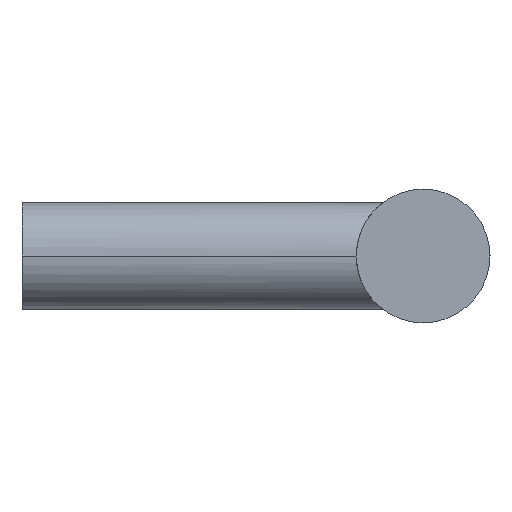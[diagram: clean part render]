
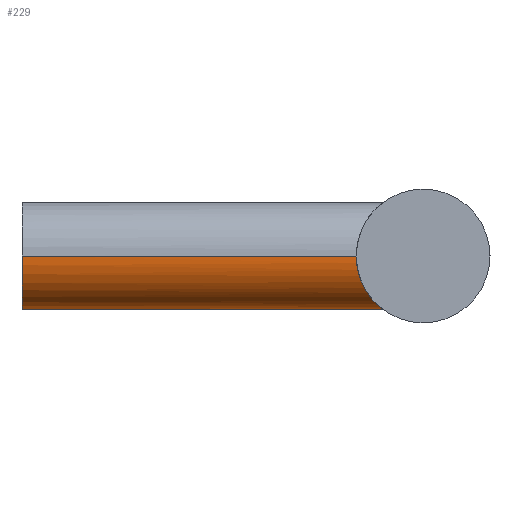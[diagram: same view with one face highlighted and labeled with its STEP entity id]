
A CAD part, left-side view. The second image highlights one B-rep face of the part: STEP entity #229.
In plain terms, the highlighted cylindrical face has radius 4 mm (diameter 8 mm), a partial arc.
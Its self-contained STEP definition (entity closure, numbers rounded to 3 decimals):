
#105 = VERTEX_POINT( '', #264 );
#113 = VERTEX_POINT( '', #273 );
#119 = EDGE_CURVE( '', #113, #105, #279, .T. );
#123 = EDGE_CURVE( '', #161, #105, #283, .T. );
#129 = EDGE_CURVE( '', #113, #223, #289, .T. );
#161 = VERTEX_POINT( '', #329 );
#223 = VERTEX_POINT( '', #398 );
#227 = EDGE_CURVE( '', #161, #223, #404, .T. );
#229 = ADVANCED_FACE( '', ( #406 ), #407, .T. );
#264 = CARTESIAN_POINT( '', ( -4., 0., 0. ) );
#273 = CARTESIAN_POINT( '', ( -4., -25., 0. ) );
#279 = LINE( '', #470, #471 );
#283 = CIRCLE( '', #494, 4. );
#289 = B_SPLINE_CURVE_WITH_KNOTS( '', 3, ( #504, #505, #506, #507, #508, #509, #510, #511, #512, #513, #514, #515, #516, #517, #518, #519, #520, #521, #522, #523, #524, #525, #526, #527, #528, #529, #530, #531, #532, #533, #534, #535, #536, #537 ), .UNSPECIFIED., .F., .F., ( 4, 2, 2, 2, 2, 2, 2, 2, 2, 2, 2, 2, 2, 2, 2, 2, 4 ), ( 6.46, 7.255, 8.05, 8.845, 9.639, 10.46, 11.28, 12.1, 12.921, 13.741, 14.561, 15.381, 16.202, 16.997, 17.791, 18.586, 19.381 ), .UNSPECIFIED. );
#329 = CARTESIAN_POINT( '', ( 4., 0., 0. ) );
#398 = CARTESIAN_POINT( '', ( 4., -25., 0. ) );
#404 = LINE( '', #744, #745 );
#406 = FACE_OUTER_BOUND( '', #747, .T. );
#407 = CYLINDRICAL_SURFACE( '', #748, 4. );
#470 = CARTESIAN_POINT( '', ( -4., 0., 0. ) );
#471 = VECTOR( '', #782, 1. );
#494 = AXIS2_PLACEMENT_3D( '', #783, #784, #785 );
#504 = CARTESIAN_POINT( '', ( -4., -25., 0. ) );
#505 = CARTESIAN_POINT( '', ( -4., -25., -0.265 ) );
#506 = CARTESIAN_POINT( '', ( -3.973, -25.021, -0.535 ) );
#507 = CARTESIAN_POINT( '', ( -3.865, -25.107, -1.064 ) );
#508 = CARTESIAN_POINT( '', ( -3.784, -25.171, -1.323 ) );
#509 = CARTESIAN_POINT( '', ( -3.575, -25.333, -1.813 ) );
#510 = CARTESIAN_POINT( '', ( -3.447, -25.431, -2.045 ) );
#511 = CARTESIAN_POINT( '', ( -3.158, -25.645, -2.468 ) );
#512 = CARTESIAN_POINT( '', ( -2.997, -25.761, -2.66 ) );
#513 = CARTESIAN_POINT( '', ( -2.654, -25.996, -3.002 ) );
#514 = CARTESIAN_POINT( '', ( -2.459, -26.124, -3.165 ) );
#515 = CARTESIAN_POINT( '', ( -2.035, -26.379, -3.453 ) );
#516 = CARTESIAN_POINT( '', ( -1.807, -26.505, -3.578 ) );
#517 = CARTESIAN_POINT( '', ( -1.324, -26.728, -3.784 ) );
#518 = CARTESIAN_POINT( '', ( -1.07, -26.825, -3.864 ) );
#519 = CARTESIAN_POINT( '', ( -0.545, -26.962, -3.972 ) );
#520 = CARTESIAN_POINT( '', ( -0.273, -27., -4. ) );
#521 = CARTESIAN_POINT( '', ( 0.273, -27., -4. ) );
#522 = CARTESIAN_POINT( '', ( 0.545, -26.962, -3.972 ) );
#523 = CARTESIAN_POINT( '', ( 1.07, -26.825, -3.864 ) );
#524 = CARTESIAN_POINT( '', ( 1.324, -26.728, -3.784 ) );
#525 = CARTESIAN_POINT( '', ( 1.807, -26.505, -3.578 ) );
#526 = CARTESIAN_POINT( '', ( 2.035, -26.379, -3.453 ) );
#527 = CARTESIAN_POINT( '', ( 2.459, -26.124, -3.165 ) );
#528 = CARTESIAN_POINT( '', ( 2.654, -25.996, -3.002 ) );
#529 = CARTESIAN_POINT( '', ( 2.997, -25.761, -2.66 ) );
#530 = CARTESIAN_POINT( '', ( 3.158, -25.645, -2.468 ) );
#531 = CARTESIAN_POINT( '', ( 3.447, -25.431, -2.045 ) );
#532 = CARTESIAN_POINT( '', ( 3.575, -25.333, -1.813 ) );
#533 = CARTESIAN_POINT( '', ( 3.784, -25.171, -1.323 ) );
#534 = CARTESIAN_POINT( '', ( 3.865, -25.107, -1.064 ) );
#535 = CARTESIAN_POINT( '', ( 3.973, -25.021, -0.535 ) );
#536 = CARTESIAN_POINT( '', ( 4., -25., -0.265 ) );
#537 = CARTESIAN_POINT( '', ( 4., -25., 0. ) );
#744 = CARTESIAN_POINT( '', ( 4., 0., 0. ) );
#745 = VECTOR( '', #930, 1. );
#747 = EDGE_LOOP( '', ( #932, #933, #934, #935 ) );
#748 = AXIS2_PLACEMENT_3D( '', #936, #937, #938 );
#782 = DIRECTION( '', ( 0., 1., 0. ) );
#783 = CARTESIAN_POINT( '', ( 0., 0., 0. ) );
#784 = DIRECTION( '', ( 0., 1., 0. ) );
#785 = DIRECTION( '', ( 1., 0., 0. ) );
#930 = DIRECTION( '', ( 0., -1., 0. ) );
#932 = ORIENTED_EDGE( '', *, *, #227, .T. );
#933 = ORIENTED_EDGE( '', *, *, #129, .F. );
#934 = ORIENTED_EDGE( '', *, *, #119, .T. );
#935 = ORIENTED_EDGE( '', *, *, #123, .F. );
#936 = CARTESIAN_POINT( '', ( 0., 0., 0. ) );
#937 = DIRECTION( '', ( 0., 1., 0. ) );
#938 = DIRECTION( '', ( 1., 0., 0. ) );
